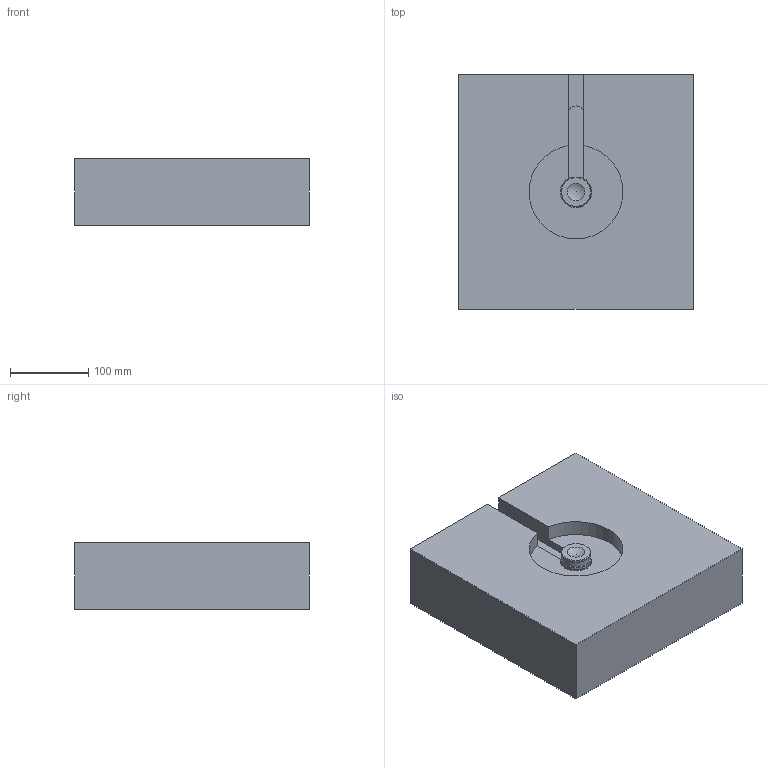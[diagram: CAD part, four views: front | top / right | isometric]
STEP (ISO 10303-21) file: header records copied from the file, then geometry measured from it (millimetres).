
FILE_DESCRIPTION( ( 'STEP AP214' ), '1' );
FILE_NAME( 'S:/PROIECTE_YUDO_2009_dupa_1.07.2009/PROIECTE YUDO 3D 01.07.2009/BIS/YUEU09-BIS18CF080_1/YUEU09-BIS18CF080.step', '2009-09-29T05:34:31', ( ' ' ), ( ' ' ), 'XStep 1.0', ' ', ' ' );
FILE_SCHEMA( ( 'automotive_design' ) );
Length unit declared in the file: millimetre
Products named in the file (5): 1; 2; 3; 4; 5
Bounding box: 300 x 300 x 85 mm (x, y, z)
Volume: 7363748.9 mm3; surface area: 318114.7 mm2
Topology: 5 solids, 5 shells, 151 faces, 368 edges, 238 vertices
Faces by surface type: plane 64, cylinder 51, cone 21, torus 12, sphere 2, bspline 1
Full cylindrical faces by diameter (mm): 1.7 x2, 8 x2, 14 x1, 17 x1, 17.1 x1, 18 x2, 18.2 x1, 18.25 x1, 19 x1, 20 x2, 24 x2, 25.1 x1, 28 x3, 28.62 x1, 32 x1, 37 x1, 38 x2
Entity records: 5529 total; most frequent: CARTESIAN_POINT 888, DIRECTION 718, ORIENTED_EDGE 610, EDGE_CURVE 305, AXIS2_PLACEMENT_3D 294, VERTEX_POINT 232, EDGE_LOOP 229, FACE_OUTER_BOUND 190
